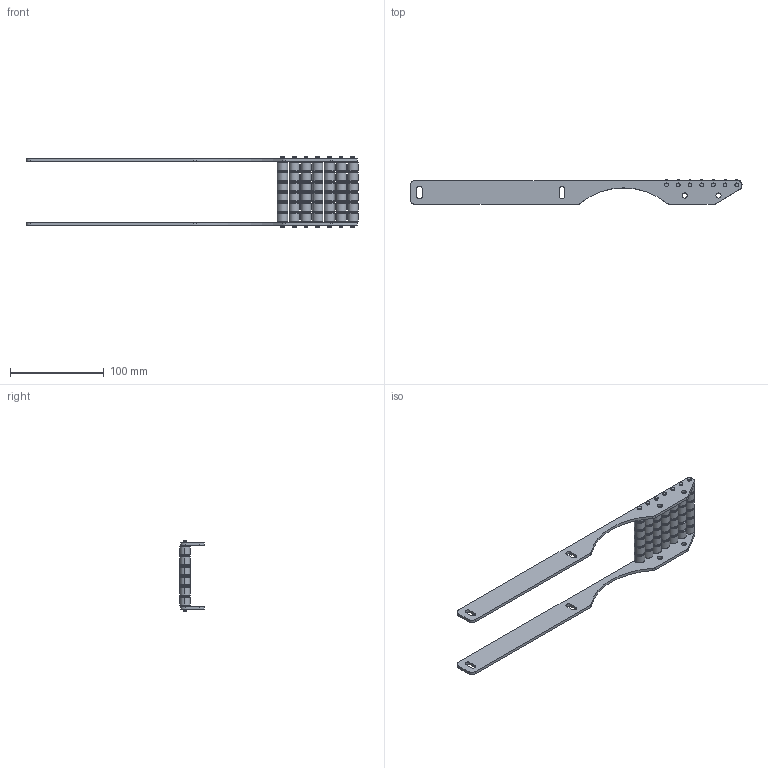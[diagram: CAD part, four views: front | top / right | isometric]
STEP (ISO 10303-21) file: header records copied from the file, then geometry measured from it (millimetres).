
FILE_DESCRIPTION (( 'STEP AP214' ), '1' );
FILE_NAME ('FSTB 65.step', '2017-04-07T11:10:00', ( '' ), ( '' ), 'SwSTEP 2.0', 'SolidWorks 2016', '' );
FILE_SCHEMA (( 'AUTOMOTIVE_DESIGN' ));
Length unit declared in the file: millimetre
Products named in the file (1): FSTB 65
Bounding box: 353.7 x 26.04 x 74.6 mm (x, y, z)
Volume: 81778.4 mm3; surface area: 55411.8 mm2
Topology: 1 solids, 1 shells, 1003 faces, 2091 edges, 1282 vertices
Faces by surface type: cylinder 447, torus 336, plane 220
Entity records: 37974 total; most frequent: DIRECTION 5653, CARTESIAN_POINT 4485, ORIENTED_EDGE 4182, AXIS2_PLACEMENT_3D 2570, EDGE_CURVE 2091, CIRCLE 1566, VERTEX_POINT 1282, EDGE_LOOP 1235
